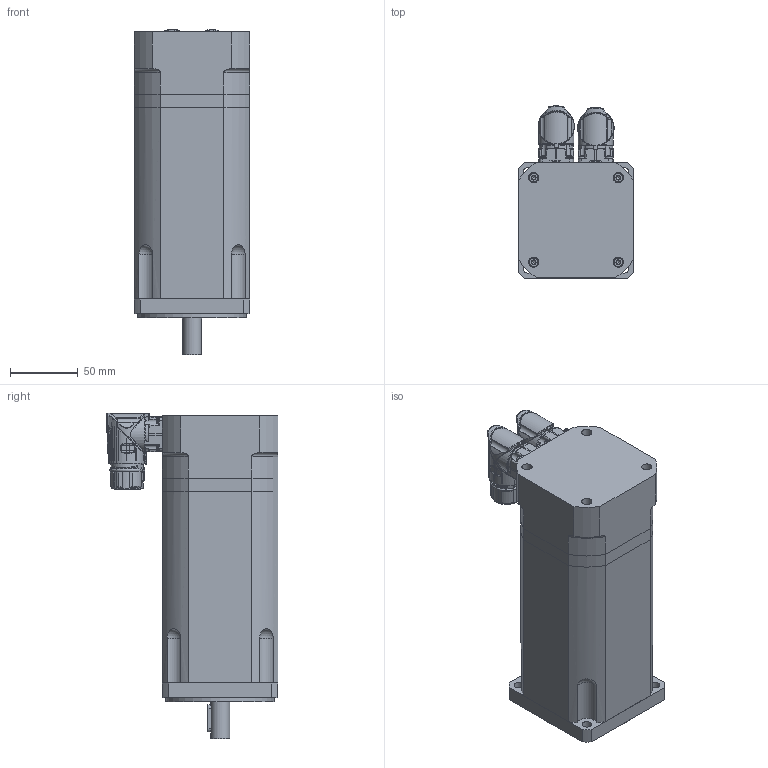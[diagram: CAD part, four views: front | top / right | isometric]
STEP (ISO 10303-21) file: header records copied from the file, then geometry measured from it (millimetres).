
FILE_DESCRIPTION(/* description */ (''),/* implementation_level */ '2;1');
FILE_NAME(/* name */ 'C:\Users\Public\Documents\Autodesk\Inventor LT 2014\Workspace\TG3\DSM5_3x_xxx7\DSM5_32_x1x7.stp',/* time_stamp */ '2016-04-28T10:16:37+02:00',/* author */ ('motion'),/* organization */ (''),/* preprocessor_version */ 'ST-DEVELOPER v15.2',/* originating_system */ 'Autodesk Inventor LT ',/* authorisation */ '');
FILE_SCHEMA (('AUTOMOTIVE_DESIGN { 1 0 10303 214 3 1 1 }'));
Products named in the file (1): DSM5_32_x1x7
Bounding box: 85 x 126.43 x 239.41 mm (x, y, z)
Volume: 1453404.4 mm3; surface area: 148771.1 mm2
Topology: 15 solids, 17 shells, 3061 faces, 7704 edges, 4630 vertices
Faces by surface type: cylinder 880, bspline 854, plane 596, torus 382, cone 229, sphere 120
Full cylindrical faces by diameter (mm): 1.2 x17, 2 x6, 2.15 x6, 2.224 x8, 2.5 x8, 2.7 x8, 3 x1, 4 x8, 4.134 x1, 4.5 x2, 5 x4, 5.5 x3, 5.9 x2, 7 x12, 7.2 x4, 7.5 x4, 14 x1, 15 x1, 15.2 x1, 19.1 x1, 21.6 x1, 22.5 x1, 23 x2, 24.4 x1, 28 x1, 35 x2, 60 x1, 80 x1
Entity records: 189371 total; most frequent: CARTESIAN_POINT 119998, ORIENTED_EDGE 14494, DIRECTION 12705, EDGE_CURVE 7247, AXIS2_PLACEMENT_3D 5470, VERTEX_POINT 4541, EDGE_LOOP 3460, ADVANCED_FACE 3057
